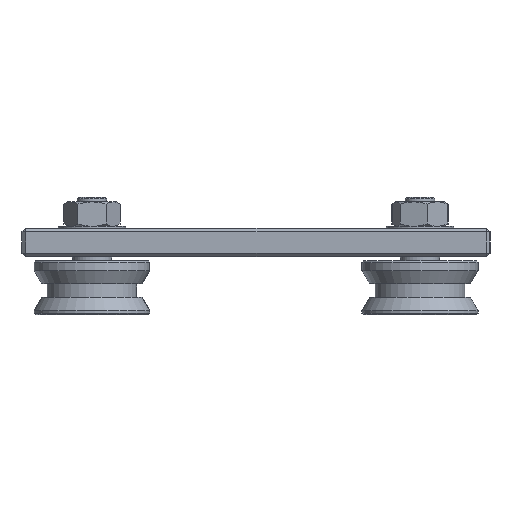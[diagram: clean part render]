
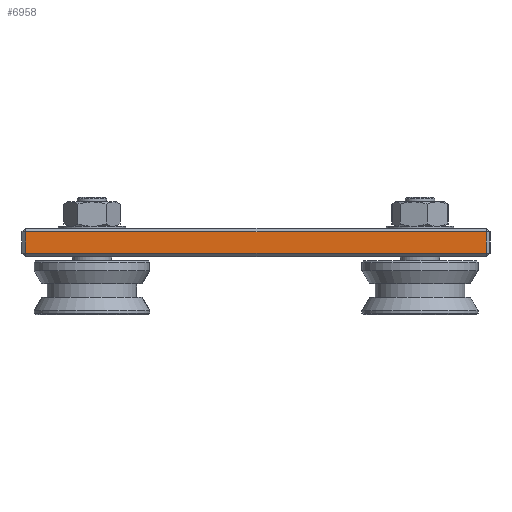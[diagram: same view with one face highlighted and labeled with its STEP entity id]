
A CAD part, left-side view. The second image highlights one B-rep face of the part: STEP entity #6958.
In plain terms, the highlighted planar face has unit normal (-1, 0, 0).
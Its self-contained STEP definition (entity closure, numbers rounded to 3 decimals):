
#4800 = DIRECTION ( 'NONE',  ( 0., 0., 1. ) ) ;
#5298 = VECTOR ( 'NONE', #4800, 1000. ) ;
#6809 = VERTEX_POINT ( 'NONE', #7942 ) ;
#6810 = ORIENTED_EDGE ( 'NONE', *, *, #6811, .T. ) ;
#6811 = EDGE_CURVE ( 'NONE', #6809, #6962, #7941, .T. ) ;
#6958 = ADVANCED_FACE ( 'NONE', ( #8317 ), #8316, .F. ) ;
#6959 = EDGE_LOOP ( 'NONE', ( #6960, #6964, #6967, #6810 ) ) ;
#6960 = ORIENTED_EDGE ( 'NONE', *, *, #6961, .T. ) ;
#6961 = EDGE_CURVE ( 'NONE', #6962, #6963, #8045, .T. ) ;
#6962 = VERTEX_POINT ( 'NONE', #8007 ) ;
#6963 = VERTEX_POINT ( 'NONE', #8006 ) ;
#6964 = ORIENTED_EDGE ( 'NONE', *, *, #6965, .T. ) ;
#6965 = EDGE_CURVE ( 'NONE', #6963, #6966, #8067, .T. ) ;
#6966 = VERTEX_POINT ( 'NONE', #8063 ) ;
#6967 = ORIENTED_EDGE ( 'NONE', *, *, #6968, .T. ) ;
#6968 = EDGE_CURVE ( 'NONE', #6966, #6809, #8062, .T. ) ;
#7940 = CARTESIAN_POINT ( 'NONE',  ( -75., -61.5, 0. ) ) ;
#7941 = LINE ( 'NONE', #7940, #5298 ) ;
#7942 = CARTESIAN_POINT ( 'NONE',  ( -75., -61.5, -6.7 ) ) ;
#8006 = CARTESIAN_POINT ( 'NONE',  ( -75., 61.5, -1. ) ) ;
#8007 = CARTESIAN_POINT ( 'NONE',  ( -75., -61.5, -1. ) ) ;
#8008 = DIRECTION ( 'NONE',  ( 0., 1., 0. ) ) ;
#8009 = VECTOR ( 'NONE', #8008, 1000. ) ;
#8010 = CARTESIAN_POINT ( 'NONE',  ( -75., 62.5, -1. ) ) ;
#8045 = LINE ( 'NONE', #8010, #8009 ) ;
#8059 = DIRECTION ( 'NONE',  ( 0., -1., 0. ) ) ;
#8060 = VECTOR ( 'NONE', #8059, 1000. ) ;
#8061 = CARTESIAN_POINT ( 'NONE',  ( -75., 62.5, -6.7 ) ) ;
#8062 = LINE ( 'NONE', #8061, #8060 ) ;
#8063 = CARTESIAN_POINT ( 'NONE',  ( -75., 61.5, -6.7 ) ) ;
#8064 = DIRECTION ( 'NONE',  ( 0., 0., -1. ) ) ;
#8065 = VECTOR ( 'NONE', #8064, 1000. ) ;
#8066 = CARTESIAN_POINT ( 'NONE',  ( -75., 61.5, 0. ) ) ;
#8067 = LINE ( 'NONE', #8066, #8065 ) ;
#8312 = DIRECTION ( 'NONE',  ( 0., 1., 0. ) ) ;
#8313 = DIRECTION ( 'NONE',  ( 1., 0., 0. ) ) ;
#8314 = CARTESIAN_POINT ( 'NONE',  ( -75., 62.5, 0. ) ) ;
#8315 = AXIS2_PLACEMENT_3D ( 'NONE', #8314, #8313, #8312 ) ;
#8316 = PLANE ( 'NONE',  #8315 ) ;
#8317 = FACE_OUTER_BOUND ( 'NONE', #6959, .T. ) ;
